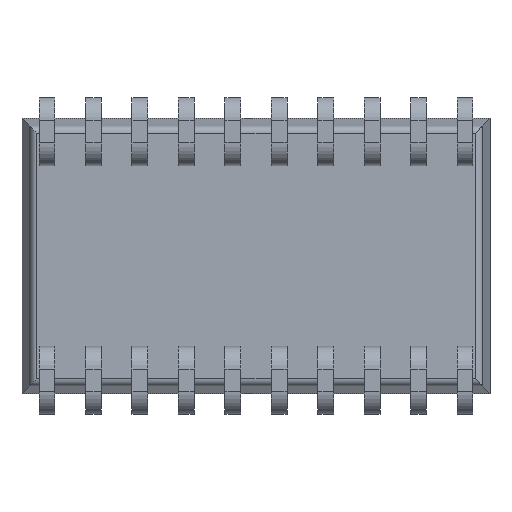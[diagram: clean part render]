
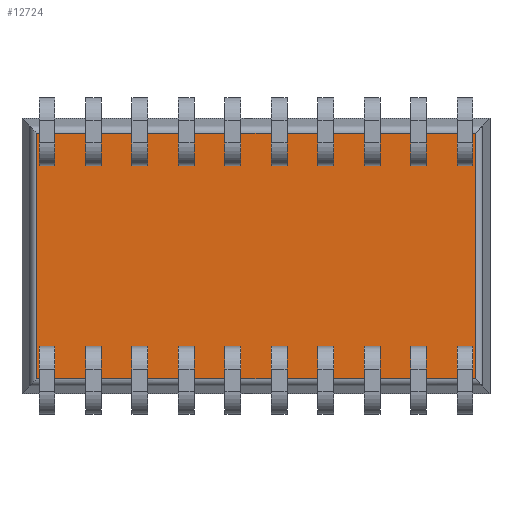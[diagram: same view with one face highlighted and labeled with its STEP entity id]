
A CAD part, front view. The second image highlights one B-rep face of the part: STEP entity #12724.
In plain terms, the highlighted planar face has unit normal (0, -1, 0).
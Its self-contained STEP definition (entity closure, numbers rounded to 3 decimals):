
#12685 = CARTESIAN_POINT ( 'NONE',  ( -5.994, 0.775, 3.357 ) ) ;
#12686 = VERTEX_POINT ( 'NONE', #12685 ) ;
#12687 = CARTESIAN_POINT ( 'NONE',  ( -5.994, 0.775, -3.357 ) ) ;
#12688 = VERTEX_POINT ( 'NONE', #12687 ) ;
#12689 = CARTESIAN_POINT ( 'NONE',  ( -5.994, 0.775, -3.525 ) ) ;
#12690 = DIRECTION ( 'NONE',  ( 0., 0., -1. ) ) ;
#12691 = VECTOR ( 'NONE', #12690, 1000. ) ;
#12692 = LINE ( 'NONE', #12689, #12691 ) ;
#12693 = EDGE_CURVE ( 'NONE', #12686, #12688, #12692, .T. ) ;
#12694 = ORIENTED_EDGE ( 'NONE', *, *, #12693, .T. ) ;
#12695 = CARTESIAN_POINT ( 'NONE',  ( 5.994, 0.775, -3.357 ) ) ;
#12696 = VERTEX_POINT ( 'NONE', #12695 ) ;
#12697 = CARTESIAN_POINT ( 'NONE',  ( 6.162, 0.775, -3.357 ) ) ;
#12698 = DIRECTION ( 'NONE',  ( 1., 0., 0. ) ) ;
#12699 = VECTOR ( 'NONE', #12698, 1000. ) ;
#12700 = LINE ( 'NONE', #12697, #12699 ) ;
#12701 = EDGE_CURVE ( 'NONE', #12688, #12696, #12700, .T. ) ;
#12702 = ORIENTED_EDGE ( 'NONE', *, *, #12701, .T. ) ;
#12703 = CARTESIAN_POINT ( 'NONE',  ( 5.994, 0.775, 3.357 ) ) ;
#12704 = VERTEX_POINT ( 'NONE', #12703 ) ;
#12705 = CARTESIAN_POINT ( 'NONE',  ( 5.994, 0.775, 3.525 ) ) ;
#12706 = DIRECTION ( 'NONE',  ( 0., 0., 1. ) ) ;
#12707 = VECTOR ( 'NONE', #12706, 1000. ) ;
#12708 = LINE ( 'NONE', #12705, #12707 ) ;
#12709 = EDGE_CURVE ( 'NONE', #12696, #12704, #12708, .T. ) ;
#12710 = ORIENTED_EDGE ( 'NONE', *, *, #12709, .T. ) ;
#12711 = CARTESIAN_POINT ( 'NONE',  ( -6.162, 0.775, 3.357 ) ) ;
#12712 = DIRECTION ( 'NONE',  ( -1., 0., 0. ) ) ;
#12713 = VECTOR ( 'NONE', #12712, 1000. ) ;
#12714 = LINE ( 'NONE', #12711, #12713 ) ;
#12715 = EDGE_CURVE ( 'NONE', #12704, #12686, #12714, .T. ) ;
#12716 = ORIENTED_EDGE ( 'NONE', *, *, #12715, .T. ) ;
#12717 = EDGE_LOOP ( 'NONE', ( #12694, #12702, #12710, #12716 ) ) ;
#12718 = FACE_OUTER_BOUND ( 'NONE', #12717, .T. ) ;
#12719 = CARTESIAN_POINT ( 'NONE',  ( 0., 0.775, 0. ) ) ;
#12720 = DIRECTION ( 'NONE',  ( 0., 1., 0. ) ) ;
#12721 = DIRECTION ( 'NONE',  ( 0., 0., 1. ) ) ;
#12722 = AXIS2_PLACEMENT_3D ( 'NONE', #12719, #12720, #12721 ) ;
#12723 = PLANE ( 'NONE', #12722 ) ;
#12724 = ADVANCED_FACE ( 'NONE', ( #12718 ), #12723, .F. ) ;
